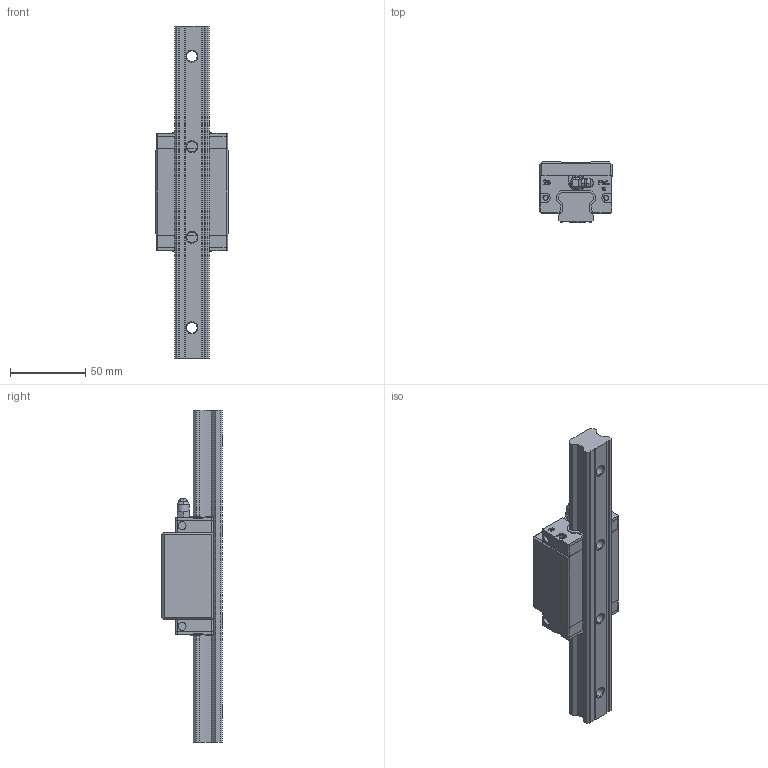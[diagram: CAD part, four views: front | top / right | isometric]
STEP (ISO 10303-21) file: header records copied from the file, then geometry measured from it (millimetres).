
FILE_DESCRIPTION (( 'STEP AP203' ), '1' );
FILE_NAME ('BGCH25BN.STEP', '2025-10-20T06:35:15', ( '' ), ( '' ), 'SwSTEP 2.0', 'SolidWorks 2020', '' );
FILE_SCHEMA (( 'CONFIG_CONTROL_DESIGN' ));
Length unit declared in the file: millimetre
Products named in the file (5): BGCH25BN; BGR25-L220; BG25端防塵; BGXH25BN; NGX02
Assembly tree (5 placements, depth 2):
  BGCH25BN
    BGR25-L220
    BGXH25BN
    BG25端防塵  x2
    NGX02
Bounding box: 47.95 x 40 x 220 mm (x, y, z)
Volume: 174726.9 mm3; surface area: 48506.4 mm2
Topology: 7 solids, 7 shells, 707 faces, 1903 edges, 1257 vertices
Faces by surface type: plane 488, cylinder 130, bspline 48, cone 37, torus 4
Entity records: 17197 total; most frequent: CARTESIAN_POINT 4290, ORIENTED_EDGE 2606, DIRECTION 2462, EDGE_CURVE 1303, LINE 936, VECTOR 936, VERTEX_POINT 857, AXIS2_PLACEMENT_3D 763
